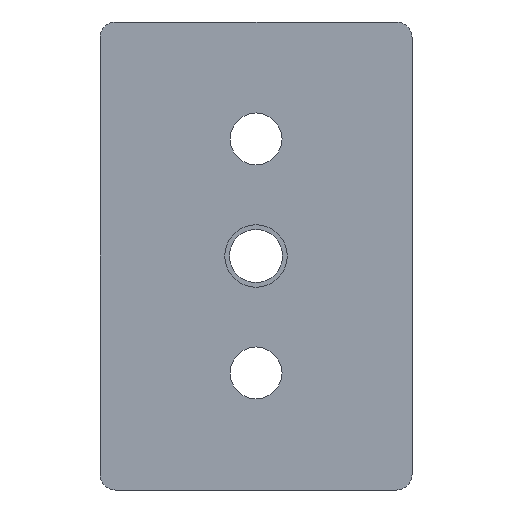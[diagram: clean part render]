
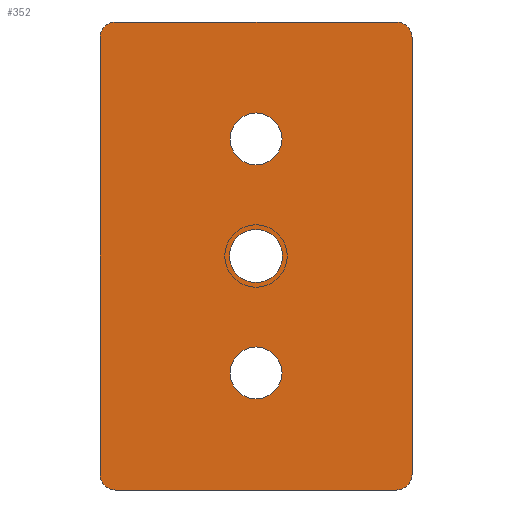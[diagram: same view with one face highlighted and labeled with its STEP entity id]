
A CAD part, front view. The second image highlights one B-rep face of the part: STEP entity #352.
In plain terms, the highlighted planar face has unit normal (0, -1, 0).
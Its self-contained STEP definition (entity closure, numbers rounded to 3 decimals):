
#1=CARTESIAN_POINT('',(0.,0.,-22.5));
#2=DIRECTION('',(0.,-1.,0.));
#3=DIRECTION('',(1.,0.,0.));
#4=AXIS2_PLACEMENT_3D('',#1,#2,#3);
#6=CARTESIAN_POINT('',(0.,0.,-22.5));
#7=DIRECTION('',(0.,-1.,0.));
#8=DIRECTION('',(-1.,0.,0.));
#9=AXIS2_PLACEMENT_3D('',#6,#7,#8);
#11=CARTESIAN_POINT('',(0.,0.,22.5));
#12=DIRECTION('',(0.,-1.,0.));
#13=DIRECTION('',(1.,0.,0.));
#14=AXIS2_PLACEMENT_3D('',#11,#12,#13);
#16=CARTESIAN_POINT('',(0.,0.,22.5));
#17=DIRECTION('',(0.,-1.,0.));
#18=DIRECTION('',(-1.,0.,0.));
#19=AXIS2_PLACEMENT_3D('',#16,#17,#18);
#21=CARTESIAN_POINT('',(0.,0.,0.));
#22=DIRECTION('',(0.,1.,0.));
#23=DIRECTION('',(1.,0.,0.));
#24=AXIS2_PLACEMENT_3D('',#21,#22,#23);
#26=CARTESIAN_POINT('',(0.,0.,0.));
#27=DIRECTION('',(0.,1.,0.));
#28=DIRECTION('',(-1.,0.,0.));
#29=AXIS2_PLACEMENT_3D('',#26,#27,#28);
#31=DIRECTION('',(0.,0.,-1.));
#32=VECTOR('',#31,84.);
#33=CARTESIAN_POINT('',(30.,0.,42.));
#34=LINE('',#33,#32);
#35=DIRECTION('',(-1.,0.,0.));
#36=VECTOR('',#35,54.);
#37=CARTESIAN_POINT('',(27.,0.,-45.));
#38=LINE('',#37,#36);
#39=DIRECTION('',(0.,0.,1.));
#40=VECTOR('',#39,84.);
#41=CARTESIAN_POINT('',(-30.,0.,-42.));
#42=LINE('',#41,#40);
#43=DIRECTION('',(1.,0.,0.));
#44=VECTOR('',#43,54.);
#45=CARTESIAN_POINT('',(-27.,0.,45.));
#46=LINE('',#45,#44);
#184=CARTESIAN_POINT('',(27.,0.,42.));
#185=DIRECTION('',(0.,-1.,0.));
#186=DIRECTION('',(1.,0.,0.));
#187=AXIS2_PLACEMENT_3D('',#184,#185,#186);
#202=CARTESIAN_POINT('',(-27.,0.,42.));
#203=DIRECTION('',(0.,-1.,0.));
#204=DIRECTION('',(0.,0.,1.));
#205=AXIS2_PLACEMENT_3D('',#202,#203,#204);
#220=CARTESIAN_POINT('',(-27.,0.,-42.));
#221=DIRECTION('',(0.,-1.,0.));
#222=DIRECTION('',(-1.,0.,0.));
#223=AXIS2_PLACEMENT_3D('',#220,#221,#222);
#238=CARTESIAN_POINT('',(27.,0.,-42.));
#239=DIRECTION('',(0.,-1.,0.));
#240=DIRECTION('',(0.,0.,-1.));
#241=AXIS2_PLACEMENT_3D('',#238,#239,#240);
#243=CARTESIAN_POINT('',(5.,0.,-22.5));
#244=CARTESIAN_POINT('',(-5.,0.,-22.5));
#245=VERTEX_POINT('',#243);
#246=VERTEX_POINT('',#244);
#247=CARTESIAN_POINT('',(5.,0.,22.5));
#248=CARTESIAN_POINT('',(-5.,0.,22.5));
#249=VERTEX_POINT('',#247);
#250=VERTEX_POINT('',#248);
#271=CARTESIAN_POINT('',(5.1,0.,0.));
#272=CARTESIAN_POINT('',(-5.1,0.,0.));
#273=VERTEX_POINT('',#271);
#274=VERTEX_POINT('',#272);
#280=CARTESIAN_POINT('',(27.,0.,45.));
#282=VERTEX_POINT('',#280);
#285=CARTESIAN_POINT('',(30.,0.,42.));
#286=VERTEX_POINT('',#285);
#288=CARTESIAN_POINT('',(-30.,0.,42.));
#290=VERTEX_POINT('',#288);
#293=CARTESIAN_POINT('',(-27.,0.,45.));
#294=VERTEX_POINT('',#293);
#296=CARTESIAN_POINT('',(30.,0.,-42.));
#298=VERTEX_POINT('',#296);
#301=CARTESIAN_POINT('',(27.,0.,-45.));
#302=VERTEX_POINT('',#301);
#304=CARTESIAN_POINT('',(-27.,0.,-45.));
#306=VERTEX_POINT('',#304);
#309=CARTESIAN_POINT('',(-30.,0.,-42.));
#310=VERTEX_POINT('',#309);
#311=CARTESIAN_POINT('',(0.,0.,0.));
#312=DIRECTION('',(0.,1.,0.));
#313=DIRECTION('',(1.,0.,0.));
#314=AXIS2_PLACEMENT_3D('',#311,#312,#313);
#315=PLANE('',#314);
#317=ORIENTED_EDGE('',*,*,#316,.F.);
#319=ORIENTED_EDGE('',*,*,#318,.T.);
#321=ORIENTED_EDGE('',*,*,#320,.F.);
#323=ORIENTED_EDGE('',*,*,#322,.T.);
#325=ORIENTED_EDGE('',*,*,#324,.F.);
#327=ORIENTED_EDGE('',*,*,#326,.T.);
#329=ORIENTED_EDGE('',*,*,#328,.F.);
#331=ORIENTED_EDGE('',*,*,#330,.T.);
#332=EDGE_LOOP('',(#317,#319,#321,#323,#325,#327,#329,#331));
#333=FACE_OUTER_BOUND('',#332,.F.);
#335=ORIENTED_EDGE('',*,*,#334,.T.);
#337=ORIENTED_EDGE('',*,*,#336,.T.);
#338=EDGE_LOOP('',(#335,#337));
#339=FACE_BOUND('',#338,.F.);
#341=ORIENTED_EDGE('',*,*,#340,.T.);
#343=ORIENTED_EDGE('',*,*,#342,.T.);
#344=EDGE_LOOP('',(#341,#343));
#345=FACE_BOUND('',#344,.F.);
#347=ORIENTED_EDGE('',*,*,#346,.F.);
#349=ORIENTED_EDGE('',*,*,#348,.F.);
#350=EDGE_LOOP('',(#347,#349));
#351=FACE_BOUND('',#350,.F.);
#352=ADVANCED_FACE('',(#333,#339,#345,#351),#315,.F.);
#5=CIRCLE('',#4,5.);
#10=CIRCLE('',#9,5.);
#15=CIRCLE('',#14,5.);
#20=CIRCLE('',#19,5.);
#25=CIRCLE('',#24,5.1);
#30=CIRCLE('',#29,5.1);
#188=CIRCLE('',#187,3.);
#206=CIRCLE('',#205,3.);
#224=CIRCLE('',#223,3.);
#242=CIRCLE('',#241,3.);
#316=EDGE_CURVE('',#286,#282,#188,.T.);
#318=EDGE_CURVE('',#286,#298,#34,.T.);
#320=EDGE_CURVE('',#302,#298,#242,.T.);
#322=EDGE_CURVE('',#302,#306,#38,.T.);
#324=EDGE_CURVE('',#310,#306,#224,.T.);
#326=EDGE_CURVE('',#310,#290,#42,.T.);
#328=EDGE_CURVE('',#294,#290,#206,.T.);
#330=EDGE_CURVE('',#294,#282,#46,.T.);
#334=EDGE_CURVE('',#245,#246,#5,.T.);
#336=EDGE_CURVE('',#246,#245,#10,.T.);
#340=EDGE_CURVE('',#249,#250,#15,.T.);
#342=EDGE_CURVE('',#250,#249,#20,.T.);
#346=EDGE_CURVE('',#273,#274,#25,.T.);
#348=EDGE_CURVE('',#274,#273,#30,.T.);
